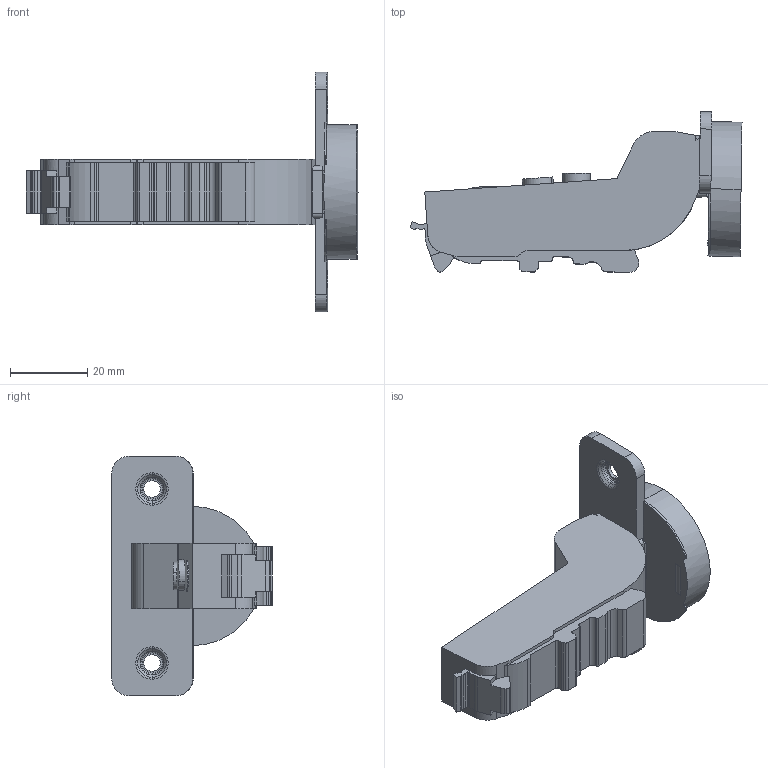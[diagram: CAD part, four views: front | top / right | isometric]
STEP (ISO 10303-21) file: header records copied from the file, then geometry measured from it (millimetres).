
FILE_DESCRIPTION (( 'STEP AP203' ), '1' );
FILE_NAME ('C81C8Q5FAB -DTC 3D close.STEP', '2024-11-30T00:12:44', ( '微软用户' ), ( '微软中国' ), 'SwSTEP 2.0', 'SolidWorks 2021', '' );
FILE_SCHEMA (( 'CONFIG_CONTROL_DESIGN' ));
Length unit declared in the file: millimetre
Products named in the file (1): C81C8Q5FAB -DTC 3D close
Bounding box: 85.88 x 41.49 x 62 mm (x, y, z)
Volume: 37659.5 mm3; surface area: 11140.8 mm2
Topology: 1 solids, 2 shells, 217 faces, 633 edges, 416 vertices
Faces by surface type: plane 124, cylinder 77, torus 12, cone 4
Entity records: 7304 total; most frequent: CARTESIAN_POINT 1343, ORIENTED_EDGE 1266, DIRECTION 1227, EDGE_CURVE 633, VECTOR 435, LINE 435, VERTEX_POINT 416, AXIS2_PLACEMENT_3D 396
